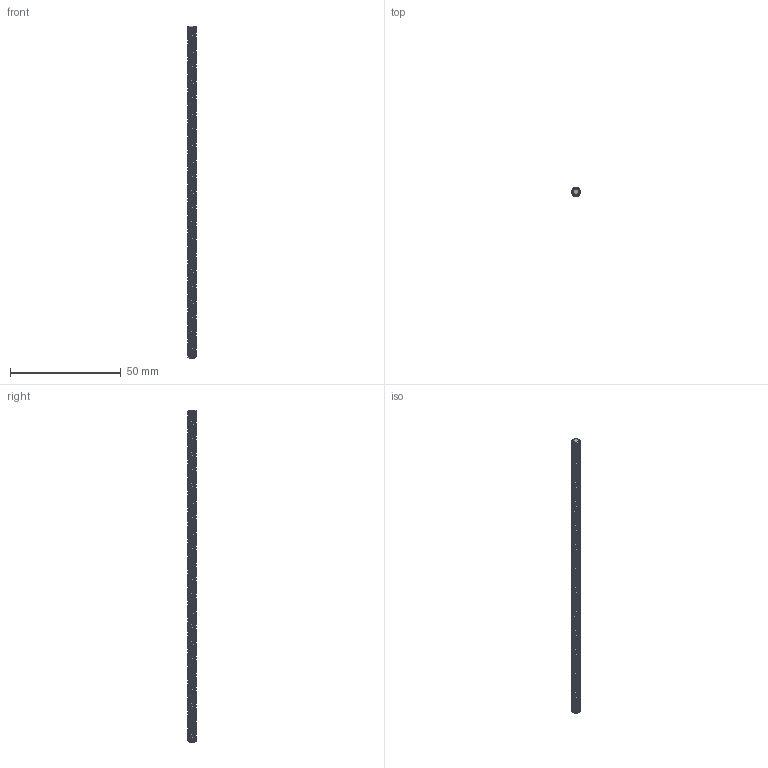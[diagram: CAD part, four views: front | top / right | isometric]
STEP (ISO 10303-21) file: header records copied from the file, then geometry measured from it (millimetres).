
FILE_DESCRIPTION (( 'STEP AP203' ), '1' );
FILE_NAME ('2808-0004-0150.STEP', '2018-04-17T16:27:40', ( '' ), ( '' ), 'SwSTEP 2.0', 'SolidWorks 2016', '' );
FILE_SCHEMA (( 'CONFIG_CONTROL_DESIGN' ));
Products named in the file (1): 2808-0004-0150
Bounding box: 4 x 4 x 150 mm (x, y, z)
Volume: 1491 mm3; surface area: 2935.8 mm2
Topology: 1 solids, 1 shells, 864 faces, 2585 edges, 1723 vertices
Faces by surface type: cylinder 856, cone 4, bspline 2, plane 2
Entity records: 47573 total; most frequent: CARTESIAN_POINT 29354, ORIENTED_EDGE 5170, DIRECTION 2602, EDGE_CURVE 2585, VERTEX_POINT 1723, AXIS2_PLACEMENT_3D 872, FACE_OUTER_BOUND 864, EDGE_LOOP 864
